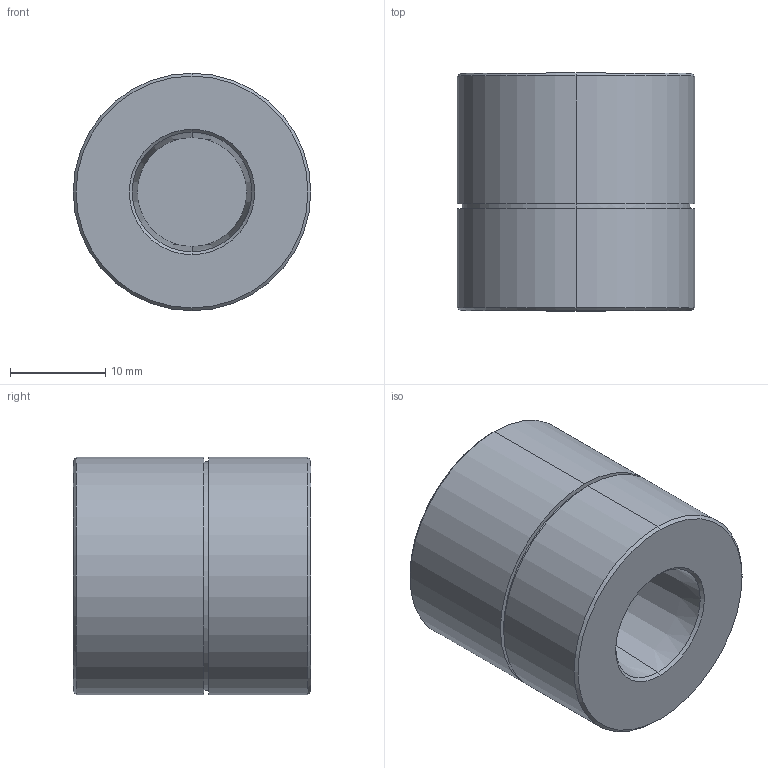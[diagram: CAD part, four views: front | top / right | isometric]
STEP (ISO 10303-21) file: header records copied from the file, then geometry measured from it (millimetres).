
FILE_DESCRIPTION (( 'STEP AP203' ), '1' );
FILE_NAME ('SW-PB-F10-T.STEP', '2022-04-15T06:55:49', ( '' ), ( '' ), 'SwSTEP 2.0', 'SolidWorks 2015', '' );
FILE_SCHEMA (( 'CONFIG_CONTROL_DESIGN' ));
Length unit declared in the file: millimetre
Products named in the file (2): SW-PB-F10-T
Bounding box: 25 x 25 x 25 mm (x, y, z)
Volume: 10988.3 mm3; surface area: 3382.6 mm2
Topology: 1 solids, 1 shells, 19 faces, 36 edges, 22 vertices
Faces by surface type: cone 8, cylinder 6, plane 5
Entity records: 699 total; most frequent: CARTESIAN_POINT 151, DIRECTION 92, ORIENTED_EDGE 72, AXIS2_PLACEMENT_3D 39, EDGE_CURVE 36, EDGE_LOOP 22, VERTEX_POINT 22, ADVANCED_FACE 19
